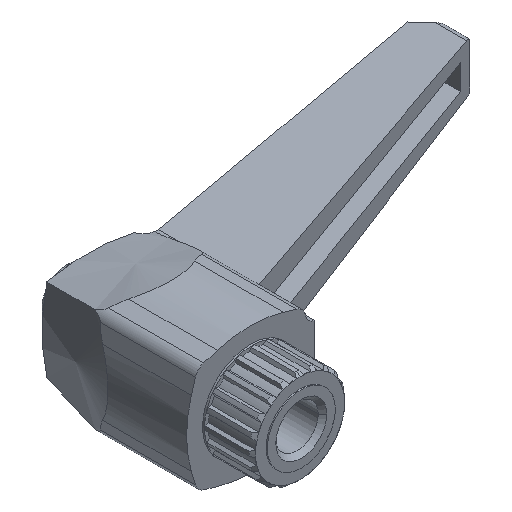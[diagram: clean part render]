
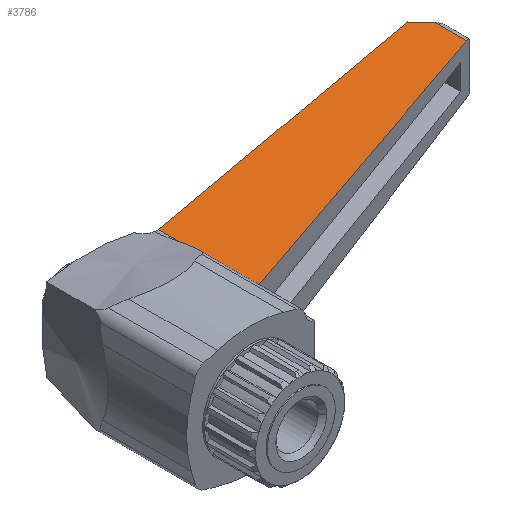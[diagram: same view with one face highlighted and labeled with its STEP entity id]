
A CAD part, isometric view. The second image highlights one B-rep face of the part: STEP entity #3786.
In plain terms, the highlighted planar face has unit normal (0.035, 0, 0.999).
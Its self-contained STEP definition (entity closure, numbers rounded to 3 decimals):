
#66 = VERTEX_POINT ( 'NONE', #1236 ) ;
#113 = CARTESIAN_POINT ( 'NONE',  ( 10.521, 17.189, 5.699 ) ) ;
#223 = EDGE_CURVE ( 'NONE', #5205, #2254, #5256, .T. ) ;
#391 = LINE ( 'NONE', #3682, #1889 ) ;
#392 = CARTESIAN_POINT ( 'NONE',  ( 59.645, 43., 3.953 ) ) ;
#483 = CARTESIAN_POINT ( 'NONE',  ( 61.844, 40.801, 3.874 ) ) ;
#651 = CARTESIAN_POINT ( 'NONE',  ( 10.791, 17.287, 5.689 ) ) ;
#676 = DIRECTION ( 'NONE',  ( 0.939, 0.342, -0.033 ) ) ;
#907 = CARTESIAN_POINT ( 'NONE',  ( 10.791, 17.287, 5.689 ) ) ;
#923 = EDGE_CURVE ( 'NONE', #3267, #66, #391, .T. ) ;
#966 = DIRECTION ( 'NONE',  ( -0.999, 0., 0.036 ) ) ;
#1002 = VECTOR ( 'NONE', #676, 1000. ) ;
#1050 = VECTOR ( 'NONE', #2829, 1000. ) ;
#1184 = VERTEX_POINT ( 'NONE', #3541 ) ;
#1190 = DIRECTION ( 'NONE',  ( 0., 1., 0. ) ) ;
#1219 = AXIS2_PLACEMENT_3D ( 'NONE', #5130, #2191, #966 ) ;
#1236 = CARTESIAN_POINT ( 'NONE',  ( 10.159, 32.556, 5.712 ) ) ;
#1247 = CARTESIAN_POINT ( 'NONE',  ( 10.791, 17.287, 5.689 ) ) ;
#1249 = CARTESIAN_POINT ( 'NONE',  ( 10.159, 43.1, 5.712 ) ) ;
#1285 = VECTOR ( 'NONE', #1884, 1000. ) ;
#1371 = CARTESIAN_POINT ( 'NONE',  ( 10.302, 17.005, 5.707 ) ) ;
#1468 = LINE ( 'NONE', #651, #1002 ) ;
#1538 = EDGE_LOOP ( 'NONE', ( #2247, #4267, #3332, #2575, #1987, #4457 ) ) ;
#1611 = EDGE_CURVE ( 'NONE', #4320, #1184, #4398, .T. ) ;
#1884 = DIRECTION ( 'NONE',  ( 0., -1., 0. ) ) ;
#1889 = VECTOR ( 'NONE', #4004, 1000. ) ;
#1892 = CARTESIAN_POINT ( 'NONE',  ( 61.844, 40.801, 3.874 ) ) ;
#1987 = ORIENTED_EDGE ( 'NONE', *, *, #3256, .F. ) ;
#2191 = DIRECTION ( 'NONE',  ( -0.036, 0., -0.999 ) ) ;
#2247 = ORIENTED_EDGE ( 'NONE', *, *, #5048, .T. ) ;
#2254 = VERTEX_POINT ( 'NONE', #3436 ) ;
#2532 = CARTESIAN_POINT ( 'NONE',  ( 10.159, 16.756, 5.712 ) ) ;
#2575 = ORIENTED_EDGE ( 'NONE', *, *, #923, .T. ) ;
#2771 = CARTESIAN_POINT ( 'NONE',  ( 61.844, 43.1, 3.874 ) ) ;
#2778 = LINE ( 'NONE', #1892, #1050 ) ;
#2829 = DIRECTION ( 'NONE',  ( -0.707, 0.707, 0.025 ) ) ;
#2940 = VECTOR ( 'NONE', #1190, 1000. ) ;
#3049 = PLANE ( 'NONE',  #1219 ) ;
#3256 = EDGE_CURVE ( 'NONE', #2254, #66, #5313, .T. ) ;
#3267 = VERTEX_POINT ( 'NONE', #392 ) ;
#3332 = ORIENTED_EDGE ( 'NONE', *, *, #4495, .T. ) ;
#3436 = CARTESIAN_POINT ( 'NONE',  ( 10.159, 16.756, 5.712 ) ) ;
#3541 = CARTESIAN_POINT ( 'NONE',  ( 61.844, 35.869, 3.874 ) ) ;
#3682 = CARTESIAN_POINT ( 'NONE',  ( 59.645, 43., 3.953 ) ) ;
#3786 = ADVANCED_FACE ( 'NONE', ( #3886 ), #3049, .F. ) ;
#3886 = FACE_OUTER_BOUND ( 'NONE', #1538, .T. ) ;
#4004 = DIRECTION ( 'NONE',  ( -0.978, -0.206, 0.035 ) ) ;
#4267 = ORIENTED_EDGE ( 'NONE', *, *, #1611, .F. ) ;
#4320 = VERTEX_POINT ( 'NONE', #483 ) ;
#4398 = LINE ( 'NONE', #2771, #1285 ) ;
#4457 = ORIENTED_EDGE ( 'NONE', *, *, #223, .F. ) ;
#4495 = EDGE_CURVE ( 'NONE', #4320, #3267, #2778, .T. ) ;
#5048 = EDGE_CURVE ( 'NONE', #5205, #1184, #1468, .T. ) ;
#5130 = CARTESIAN_POINT ( 'NONE',  ( 10.159, 43.1, 5.712 ) ) ;
#5205 = VERTEX_POINT ( 'NONE', #1247 ) ;
#5256 =( BOUNDED_CURVE ( )  B_SPLINE_CURVE ( 3, ( #907, #113, #1371, #2532 ),
 .UNSPECIFIED., .F., .F. ) 
 B_SPLINE_CURVE_WITH_KNOTS ( ( 4, 4 ),
 ( 1.92, 2.622 ),
 .UNSPECIFIED. ) 
 CURVE ( )  GEOMETRIC_REPRESENTATION_ITEM ( )  RATIONAL_B_SPLINE_CURVE ( ( 1., 0.959, 0.959, 1. ) ) 
 REPRESENTATION_ITEM ( '' )  );
#5313 = LINE ( 'NONE', #1249, #2940 ) ;
